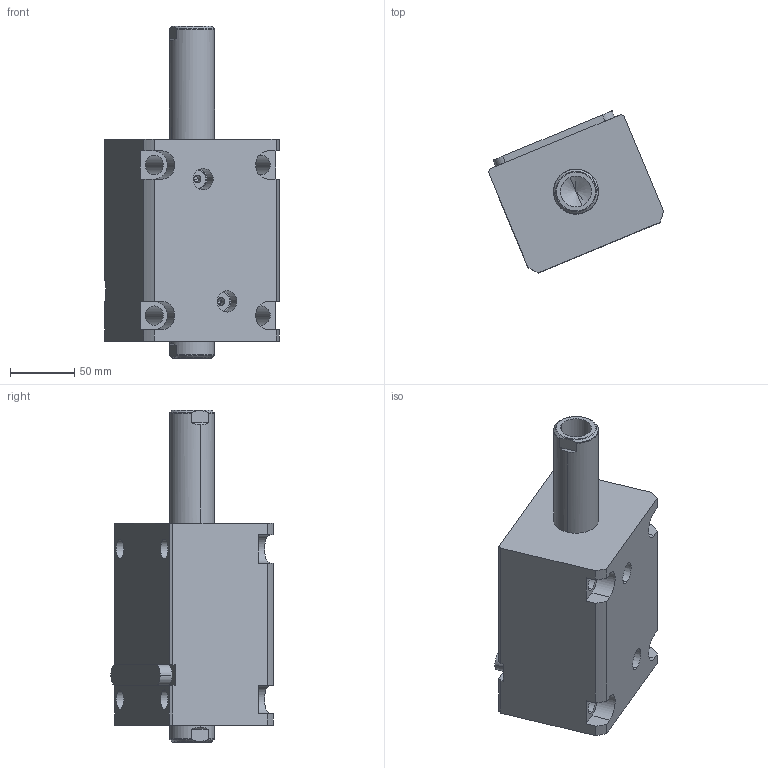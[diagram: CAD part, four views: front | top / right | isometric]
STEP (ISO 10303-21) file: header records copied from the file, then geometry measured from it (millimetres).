
FILE_DESCRIPTION (( 'STEP AP214' ), '1' );
FILE_NAME ('chtb-lw63x75n_asm.STEP', '2018-05-03T08:03:11', ( 'Windows' ), ( 'Microsoft' ), 'SwSTEP 2.0', 'SolidWorks 2015', '' );
FILE_SCHEMA (( 'AUTOMOTIVE_DESIGN' ));
Length unit declared in the file: millimetre
Products named in the file (5): CHTB-LA63PJ; CHTB-SW63X75NHSG; CHTB-LW63X75NBT; CHTB-63QG; chtb-lw63x75n_asm
Assembly tree (4 placements, depth 2):
  chtb-lw63x75n_asm
    CHTB-63QG
    CHTB-LW63X75NBT
    CHTB-SW63X75NHSG
    CHTB-LA63PJ
Bounding box: 135.77 x 126.06 x 258 mm (x, y, z)
Volume: 1426089.8 mm3; surface area: 191735 mm2
Topology: 4 solids, 4 shells, 194 faces, 563 edges, 381 vertices
Faces by surface type: cylinder 104, plane 50, cone 16, bspline 12, torus 12
Entity records: 18887 total; most frequent: CARTESIAN_POINT 13868, ORIENTED_EDGE 1110, DIRECTION 876, EDGE_CURVE 555, VERTEX_POINT 381, AXIS2_PLACEMENT_3D 336, EDGE_LOOP 222, LINE 204
